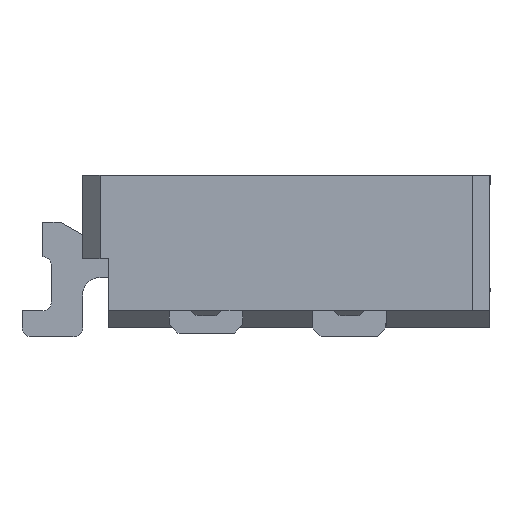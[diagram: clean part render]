
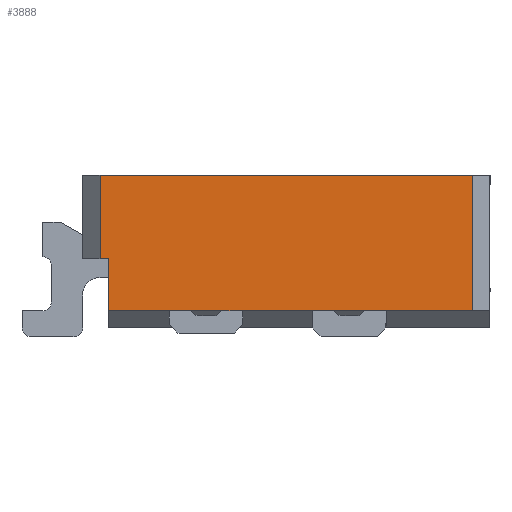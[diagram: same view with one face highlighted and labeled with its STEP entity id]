
A CAD part, front view. The second image highlights one B-rep face of the part: STEP entity #3888.
In plain terms, the highlighted planar face has unit normal (0, -1, 0).
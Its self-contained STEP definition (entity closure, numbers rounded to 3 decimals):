
#738 = VERTEX_POINT ( 'NONE', #2776 ) ;
#1424 = LINE ( 'NONE', #8726, #1715 ) ;
#1560 = VERTEX_POINT ( 'NONE', #13796 ) ;
#1715 = VECTOR ( 'NONE', #7207, 1000. ) ;
#1843 = EDGE_CURVE ( 'NONE', #13060, #5016, #10098, .T. ) ;
#2776 = CARTESIAN_POINT ( 'NONE',  ( -0.9, -4.65, 0.88 ) ) ;
#2851 = DIRECTION ( 'NONE',  ( 0., 0., 1. ) ) ;
#2852 = VERTEX_POINT ( 'NONE', #2961 ) ;
#2961 = CARTESIAN_POINT ( 'NONE',  ( -0.85, -4.65, 0.4 ) ) ;
#3061 = DIRECTION ( 'NONE',  ( 0., 0., 1. ) ) ;
#3172 = CARTESIAN_POINT ( 'NONE',  ( 1.25, -4.65, 0.1 ) ) ;
#3888 = ADVANCED_FACE ( 'NONE', ( #7541 ), #7441, .F. ) ;
#4371 = DIRECTION ( 'NONE',  ( 0., 1., 0. ) ) ;
#4584 = CARTESIAN_POINT ( 'NONE',  ( -0.85, -4.65, 0. ) ) ;
#4635 = ORIENTED_EDGE ( 'NONE', *, *, #9199, .F. ) ;
#4965 = ORIENTED_EDGE ( 'NONE', *, *, #11332, .F. ) ;
#5016 = VERTEX_POINT ( 'NONE', #7053 ) ;
#5159 = DIRECTION ( 'NONE',  ( -1., 0., 0. ) ) ;
#5238 = EDGE_CURVE ( 'NONE', #7220, #738, #13639, .T. ) ;
#5734 = VECTOR ( 'NONE', #7729, 1000. ) ;
#5895 = CARTESIAN_POINT ( 'NONE',  ( 0., -4.65, 0. ) ) ;
#6111 = LINE ( 'NONE', #4584, #7215 ) ;
#6698 = CARTESIAN_POINT ( 'NONE',  ( 0., -4.65, 0.1 ) ) ;
#6788 = CARTESIAN_POINT ( 'NONE',  ( -0.9, -4.65, 0.4 ) ) ;
#6954 = ORIENTED_EDGE ( 'NONE', *, *, #7738, .F. ) ;
#7053 = CARTESIAN_POINT ( 'NONE',  ( -0.85, -4.65, 0.1 ) ) ;
#7207 = DIRECTION ( 'NONE',  ( 1., 0., 0. ) ) ;
#7215 = VECTOR ( 'NONE', #3061, 1000. ) ;
#7220 = VERTEX_POINT ( 'NONE', #6788 ) ;
#7441 = PLANE ( 'NONE',  #12902 ) ;
#7541 = FACE_OUTER_BOUND ( 'NONE', #11900, .T. ) ;
#7729 = DIRECTION ( 'NONE',  ( -1., 0., 0. ) ) ;
#7738 = EDGE_CURVE ( 'NONE', #5016, #2852, #6111, .T. ) ;
#8726 = CARTESIAN_POINT ( 'NONE',  ( 1.35, -4.65, 0.88 ) ) ;
#9199 = EDGE_CURVE ( 'NONE', #738, #1560, #1424, .T. ) ;
#9209 = CARTESIAN_POINT ( 'NONE',  ( 0., -4.65, 0.4 ) ) ;
#9348 = DIRECTION ( 'NONE',  ( 0., 0., -1. ) ) ;
#9606 = VECTOR ( 'NONE', #10633, 1000. ) ;
#10098 = LINE ( 'NONE', #6698, #12669 ) ;
#10633 = DIRECTION ( 'NONE',  ( 0., 0., 1. ) ) ;
#10752 = LINE ( 'NONE', #9209, #5734 ) ;
#10885 = CARTESIAN_POINT ( 'NONE',  ( 1.25, -4.65, 0.88 ) ) ;
#11303 = ORIENTED_EDGE ( 'NONE', *, *, #5238, .F. ) ;
#11332 = EDGE_CURVE ( 'NONE', #1560, #13060, #12416, .T. ) ;
#11428 = ORIENTED_EDGE ( 'NONE', *, *, #1843, .F. ) ;
#11780 = ORIENTED_EDGE ( 'NONE', *, *, #14771, .F. ) ;
#11900 = EDGE_LOOP ( 'NONE', ( #4965, #4635, #11303, #11780, #6954, #11428 ) ) ;
#12155 = CARTESIAN_POINT ( 'NONE',  ( -0.9, -4.65, 0. ) ) ;
#12416 = LINE ( 'NONE', #10885, #13344 ) ;
#12669 = VECTOR ( 'NONE', #5159, 1000. ) ;
#12902 = AXIS2_PLACEMENT_3D ( 'NONE', #5895, #4371, #2851 ) ;
#13060 = VERTEX_POINT ( 'NONE', #3172 ) ;
#13344 = VECTOR ( 'NONE', #9348, 1000. ) ;
#13639 = LINE ( 'NONE', #12155, #9606 ) ;
#13796 = CARTESIAN_POINT ( 'NONE',  ( 1.25, -4.65, 0.88 ) ) ;
#14771 = EDGE_CURVE ( 'NONE', #2852, #7220, #10752, .T. ) ;
